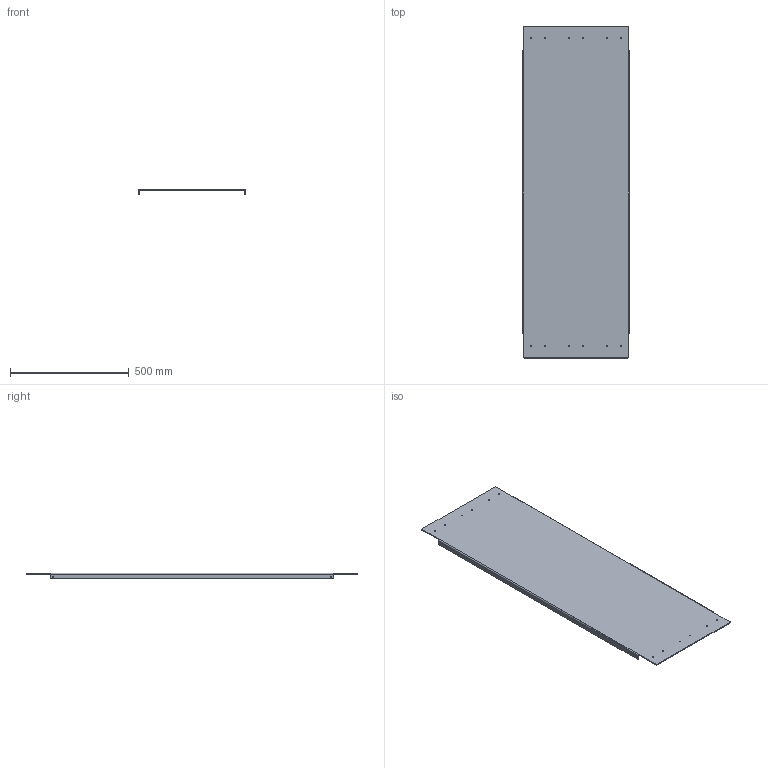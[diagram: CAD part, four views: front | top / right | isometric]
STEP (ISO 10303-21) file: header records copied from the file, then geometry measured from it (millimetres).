
FILE_DESCRIPTION(('HOOPS Exchange Step'),'2;1');
FILE_NAME('/private/var/mobile/Containers/Data/Application/E4481369-A8C6-45C6-A958-B1853E49479D/tmp/export/temp_export','2021-04-12T21:11:50+00:00',('mobile'),('Shapr3D Limited'),'HOOPS Exchange 2020.2','Shapr3D','Authorized');
FILE_SCHEMA( ('AP203_CONFIGURATION_CONTROLLED_3D_DESIGN_OF_MECHANICAL_PARTS_AND_ASSEMBLIES_MIM_LF') );
Length unit declared in the file: millimetre
Products named in the file (2): 0; /private/var/mobile/Containers/Data/Application/E4481369-A8C6-45C6-A958-B1853E49479D/tmp/3B83B133-59DD-42E5-A119-B9DAD3A2AC33.tmp
Assembly tree (1 placements, depth 2):
  /private/var/mobile/Containers/Data/Application/E4481369-A8C6-45C6-A958-B1853E49479D/tmp/3B83B133-59DD-42E5-A119-B9DAD3A2AC33.tmp
    0
Bounding box: 450 x 1400 x 24 mm (x, y, z)
Volume: 2688755.3 mm3; surface area: 1360508.8 mm2
Topology: 1 solids, 1 shells, 46 faces, 144 edges, 100 vertices
Faces by surface type: cylinder 28, plane 18
Full cylindrical faces by diameter (mm): 5.2 x16
Entity records: 1771 total; most frequent: DIRECTION 318, CARTESIAN_POINT 293, ORIENTED_EDGE 288, EDGE_CURVE 144, AXIS2_PLACEMENT_3D 125, VERTEX_POINT 100, EDGE_LOOP 78, FACE_BOUND 78
